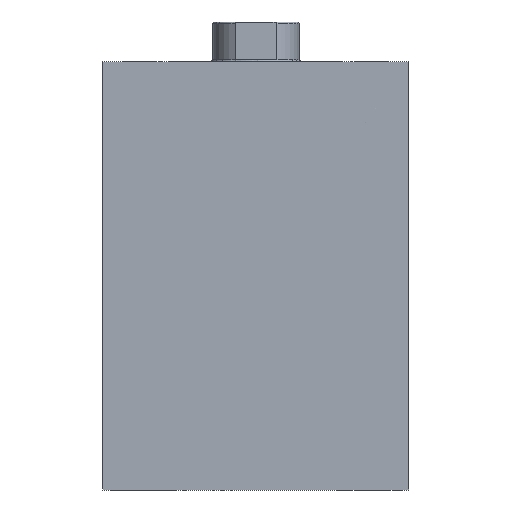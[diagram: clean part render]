
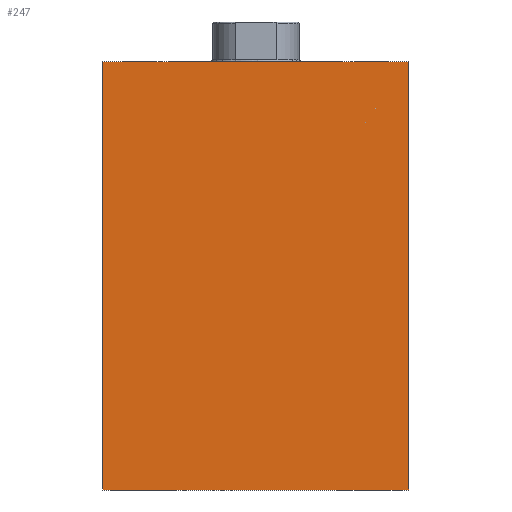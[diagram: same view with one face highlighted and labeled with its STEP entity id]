
A CAD part, left-side view. The second image highlights one B-rep face of the part: STEP entity #247.
In plain terms, the highlighted planar face has unit normal (-1, 0, 0) as drawn and (0, 0, -1) by its records, which use the part's own axes.
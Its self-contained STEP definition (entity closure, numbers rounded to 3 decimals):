
#247 = ADVANCED_FACE( '', ( #328 ), #329, .F. );
#328 = FACE_OUTER_BOUND( '', #524, .T. );
#329 = PLANE( '', #525 );
#524 = EDGE_LOOP( '', ( #739, #740, #741, #742 ) );
#525 = AXIS2_PLACEMENT_3D( '', #743, #744, #745 );
#739 = ORIENTED_EDGE( '', *, *, #1081, .T. );
#740 = ORIENTED_EDGE( '', *, *, #1097, .F. );
#741 = ORIENTED_EDGE( '', *, *, #1092, .F. );
#742 = ORIENTED_EDGE( '', *, *, #1096, .T. );
#743 = CARTESIAN_POINT( '', ( 119., -42.5, -31.5 ) );
#744 = DIRECTION( '', ( 0., 0., 1. ) );
#745 = DIRECTION( '', ( 1., 0., 0. ) );
#1081 = EDGE_CURVE( '', #1175, #1173, #1176, .T. );
#1092 = EDGE_CURVE( '', #1193, #1195, #1196, .T. );
#1096 = EDGE_CURVE( '', #1193, #1175, #1202, .T. );
#1097 = EDGE_CURVE( '', #1195, #1173, #1203, .T. );
#1173 = VERTEX_POINT( '', #1406 );
#1175 = VERTEX_POINT( '', #1409 );
#1176 = LINE( '', #1410, #1411 );
#1193 = VERTEX_POINT( '', #1600 );
#1195 = VERTEX_POINT( '', #1603 );
#1196 = LINE( '', #1604, #1605 );
#1202 = B_SPLINE_CURVE_WITH_KNOTS( '', 1, ( #1678, #1679 ), .UNSPECIFIED., .F., .F., ( 2, 2 ), ( 0., 1. ), .UNSPECIFIED. );
#1203 = B_SPLINE_CURVE_WITH_KNOTS( '', 1, ( #1680, #1681 ), .UNSPECIFIED., .F., .F., ( 2, 2 ), ( 0., 1. ), .UNSPECIFIED. );
#1406 = CARTESIAN_POINT( '', ( 0., 42.5, -31.5 ) );
#1409 = CARTESIAN_POINT( '', ( 0., -42.5, -31.5 ) );
#1410 = CARTESIAN_POINT( '', ( 0., -42.5, -31.5 ) );
#1411 = VECTOR( '', #3779, 1000. );
#1600 = CARTESIAN_POINT( '', ( 119., -42.5, -31.5 ) );
#1603 = CARTESIAN_POINT( '', ( 119., 42.5, -31.5 ) );
#1604 = CARTESIAN_POINT( '', ( 119., -42.5, -31.5 ) );
#1605 = VECTOR( '', #3783, 1000. );
#1678 = CARTESIAN_POINT( '', ( 119., -42.5, -31.5 ) );
#1679 = CARTESIAN_POINT( '', ( 0., -42.5, -31.5 ) );
#1680 = CARTESIAN_POINT( '', ( 119., 42.5, -31.5 ) );
#1681 = CARTESIAN_POINT( '', ( 0., 42.5, -31.5 ) );
#3779 = DIRECTION( '', ( 0., 1., 0. ) );
#3783 = DIRECTION( '', ( 0., 1., 0. ) );
